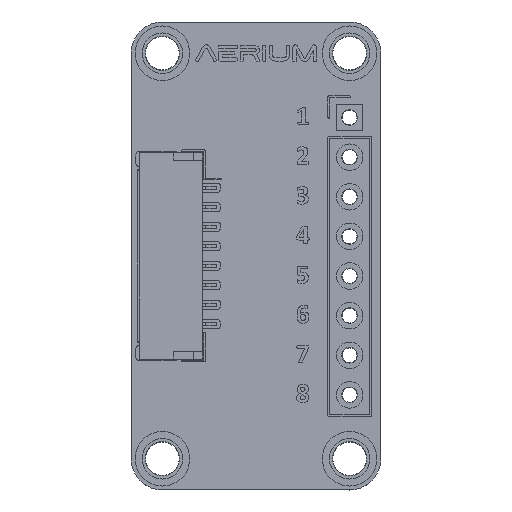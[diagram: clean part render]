
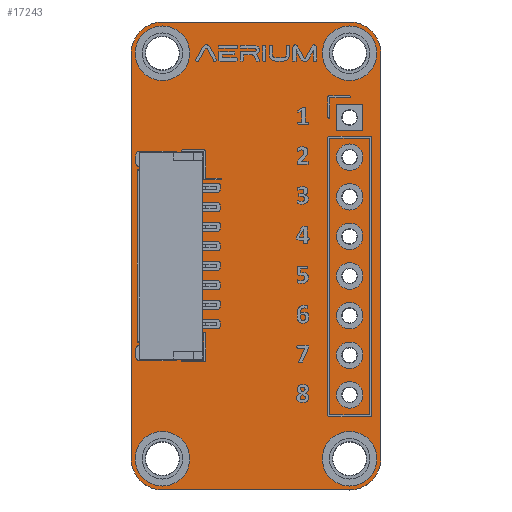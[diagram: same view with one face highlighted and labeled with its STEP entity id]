
A CAD part, top view. The second image highlights one B-rep face of the part: STEP entity #17243.
In plain terms, the highlighted planar face has unit normal (0, 0, 1).
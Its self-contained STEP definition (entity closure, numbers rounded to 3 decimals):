
#491=CIRCLE('',#18411,2.);
#508=CIRCLE('',#18432,2.);
#509=CIRCLE('',#18433,2.);
#510=CIRCLE('',#18434,2.);
#511=CIRCLE('',#18435,1.1);
#512=CIRCLE('',#18436,1.1);
#513=CIRCLE('',#18437,0.5);
#514=CIRCLE('',#18438,0.5);
#515=CIRCLE('',#18439,0.5);
#516=CIRCLE('',#18440,0.5);
#517=CIRCLE('',#18441,1.1);
#518=CIRCLE('',#18442,0.5);
#519=CIRCLE('',#18443,0.5);
#520=CIRCLE('',#18444,0.5);
#521=CIRCLE('',#18445,0.5);
#522=CIRCLE('',#18446,1.1);
#850=FACE_BOUND('',#2300,.T.);
#851=FACE_BOUND('',#2301,.T.);
#852=FACE_BOUND('',#2302,.T.);
#853=FACE_BOUND('',#2303,.T.);
#854=FACE_BOUND('',#2304,.T.);
#855=FACE_BOUND('',#2305,.T.);
#856=FACE_BOUND('',#2306,.T.);
#857=FACE_BOUND('',#2307,.T.);
#858=FACE_BOUND('',#2308,.T.);
#859=FACE_BOUND('',#2309,.T.);
#860=FACE_BOUND('',#2310,.T.);
#861=FACE_BOUND('',#2311,.T.);
#1510=FACE_OUTER_BOUND('',#2299,.T.);
#2299=EDGE_LOOP('',(#15529,#15530,#15531,#15532,#15533,#15534,#15535,#15536));
#2300=EDGE_LOOP('',(#15537));
#2301=EDGE_LOOP('',(#15538));
#2302=EDGE_LOOP('',(#15539));
#2303=EDGE_LOOP('',(#15540));
#2304=EDGE_LOOP('',(#15541));
#2305=EDGE_LOOP('',(#15542));
#2306=EDGE_LOOP('',(#15543));
#2307=EDGE_LOOP('',(#15544));
#2308=EDGE_LOOP('',(#15545));
#2309=EDGE_LOOP('',(#15546));
#2310=EDGE_LOOP('',(#15547));
#2311=EDGE_LOOP('',(#15548));
#4511=LINE('',#28179,#6718);
#4513=LINE('',#28183,#6720);
#4518=LINE('',#28225,#6725);
#4519=LINE('',#28229,#6726);
#6718=VECTOR('',#22734,1.);
#6720=VECTOR('',#22738,1.);
#6725=VECTOR('',#22779,1.);
#6726=VECTOR('',#22782,1.);
#8823=VERTEX_POINT('',#28168);
#8824=VERTEX_POINT('',#28170);
#8827=VERTEX_POINT('',#28177);
#8828=VERTEX_POINT('',#28182);
#8846=VERTEX_POINT('',#28222);
#8847=VERTEX_POINT('',#28224);
#8848=VERTEX_POINT('',#28226);
#8849=VERTEX_POINT('',#28228);
#8850=VERTEX_POINT('',#28231);
#8851=VERTEX_POINT('',#28233);
#8852=VERTEX_POINT('',#28235);
#8853=VERTEX_POINT('',#28237);
#8854=VERTEX_POINT('',#28239);
#8855=VERTEX_POINT('',#28241);
#8856=VERTEX_POINT('',#28243);
#8857=VERTEX_POINT('',#28245);
#8858=VERTEX_POINT('',#28247);
#8859=VERTEX_POINT('',#28249);
#8860=VERTEX_POINT('',#28251);
#8861=VERTEX_POINT('',#28253);
#11429=EDGE_CURVE('',#8823,#8824,#491,.T.);
#11433=EDGE_CURVE('',#8827,#8823,#4511,.T.);
#11435=EDGE_CURVE('',#8824,#8828,#4513,.T.);
#11455=EDGE_CURVE('',#8846,#8827,#508,.T.);
#11456=EDGE_CURVE('',#8847,#8846,#4518,.T.);
#11457=EDGE_CURVE('',#8848,#8847,#509,.T.);
#11458=EDGE_CURVE('',#8849,#8848,#4519,.T.);
#11459=EDGE_CURVE('',#8828,#8849,#510,.T.);
#11460=EDGE_CURVE('',#8850,#8850,#511,.T.);
#11461=EDGE_CURVE('',#8851,#8851,#512,.T.);
#11462=EDGE_CURVE('',#8852,#8852,#513,.T.);
#11463=EDGE_CURVE('',#8853,#8853,#514,.T.);
#11464=EDGE_CURVE('',#8854,#8854,#515,.T.);
#11465=EDGE_CURVE('',#8855,#8855,#516,.T.);
#11466=EDGE_CURVE('',#8856,#8856,#517,.T.);
#11467=EDGE_CURVE('',#8857,#8857,#518,.T.);
#11468=EDGE_CURVE('',#8858,#8858,#519,.T.);
#11469=EDGE_CURVE('',#8859,#8859,#520,.T.);
#11470=EDGE_CURVE('',#8860,#8860,#521,.T.);
#11471=EDGE_CURVE('',#8861,#8861,#522,.T.);
#15529=ORIENTED_EDGE('',*,*,#11429,.F.);
#15530=ORIENTED_EDGE('',*,*,#11433,.F.);
#15531=ORIENTED_EDGE('',*,*,#11455,.F.);
#15532=ORIENTED_EDGE('',*,*,#11456,.F.);
#15533=ORIENTED_EDGE('',*,*,#11457,.F.);
#15534=ORIENTED_EDGE('',*,*,#11458,.F.);
#15535=ORIENTED_EDGE('',*,*,#11459,.F.);
#15536=ORIENTED_EDGE('',*,*,#11435,.F.);
#15537=ORIENTED_EDGE('',*,*,#11460,.T.);
#15538=ORIENTED_EDGE('',*,*,#11461,.T.);
#15539=ORIENTED_EDGE('',*,*,#11462,.T.);
#15540=ORIENTED_EDGE('',*,*,#11463,.T.);
#15541=ORIENTED_EDGE('',*,*,#11464,.T.);
#15542=ORIENTED_EDGE('',*,*,#11465,.T.);
#15543=ORIENTED_EDGE('',*,*,#11466,.T.);
#15544=ORIENTED_EDGE('',*,*,#11467,.T.);
#15545=ORIENTED_EDGE('',*,*,#11468,.T.);
#15546=ORIENTED_EDGE('',*,*,#11469,.T.);
#15547=ORIENTED_EDGE('',*,*,#11470,.T.);
#15548=ORIENTED_EDGE('',*,*,#11471,.T.);
#16138=PLANE('',#18431);
#17243=ADVANCED_FACE('',(#1510,#850,#851,#852,#853,#854,#855,#856,#857,
#858,#859,#860,#861),#16138,.T.);
#18411=AXIS2_PLACEMENT_3D('',#28171,#22726,#22727);
#18431=AXIS2_PLACEMENT_3D('',#28221,#22775,#22776);
#18432=AXIS2_PLACEMENT_3D('',#28223,#22777,#22778);
#18433=AXIS2_PLACEMENT_3D('',#28227,#22780,#22781);
#18434=AXIS2_PLACEMENT_3D('',#28230,#22783,#22784);
#18435=AXIS2_PLACEMENT_3D('',#28232,#22785,#22786);
#18436=AXIS2_PLACEMENT_3D('',#28234,#22787,#22788);
#18437=AXIS2_PLACEMENT_3D('',#28236,#22789,#22790);
#18438=AXIS2_PLACEMENT_3D('',#28238,#22791,#22792);
#18439=AXIS2_PLACEMENT_3D('',#28240,#22793,#22794);
#18440=AXIS2_PLACEMENT_3D('',#28242,#22795,#22796);
#18441=AXIS2_PLACEMENT_3D('',#28244,#22797,#22798);
#18442=AXIS2_PLACEMENT_3D('',#28246,#22799,#22800);
#18443=AXIS2_PLACEMENT_3D('',#28248,#22801,#22802);
#18444=AXIS2_PLACEMENT_3D('',#28250,#22803,#22804);
#18445=AXIS2_PLACEMENT_3D('',#28252,#22805,#22806);
#18446=AXIS2_PLACEMENT_3D('',#28254,#22807,#22808);
#22726=DIRECTION('center_axis',(0.,0.,-1.));
#22727=DIRECTION('ref_axis',(0.,1.,0.));
#22734=DIRECTION('',(1.,0.,0.));
#22738=DIRECTION('',(0.,-1.,0.));
#22775=DIRECTION('center_axis',(0.,0.,1.));
#22776=DIRECTION('ref_axis',(1.,0.,0.));
#22777=DIRECTION('center_axis',(0.,0.,-1.));
#22778=DIRECTION('ref_axis',(-1.,0.,0.));
#22779=DIRECTION('',(0.,1.,0.));
#22780=DIRECTION('center_axis',(0.,0.,-1.));
#22781=DIRECTION('ref_axis',(0.,-1.,0.));
#22782=DIRECTION('',(-1.,0.,0.));
#22783=DIRECTION('center_axis',(0.,0.,-1.));
#22784=DIRECTION('ref_axis',(1.,0.,0.));
#22785=DIRECTION('center_axis',(0.,0.,-1.));
#22786=DIRECTION('ref_axis',(0.,-1.,0.));
#22787=DIRECTION('center_axis',(0.,0.,-1.));
#22788=DIRECTION('ref_axis',(0.,-1.,0.));
#22789=DIRECTION('center_axis',(0.,0.,-1.));
#22790=DIRECTION('ref_axis',(0.,-1.,0.));
#22791=DIRECTION('center_axis',(0.,0.,-1.));
#22792=DIRECTION('ref_axis',(0.,-1.,0.));
#22793=DIRECTION('center_axis',(0.,0.,-1.));
#22794=DIRECTION('ref_axis',(0.,-1.,0.));
#22795=DIRECTION('center_axis',(0.,0.,-1.));
#22796=DIRECTION('ref_axis',(0.,-1.,0.));
#22797=DIRECTION('center_axis',(0.,0.,-1.));
#22798=DIRECTION('ref_axis',(0.,-1.,0.));
#22799=DIRECTION('center_axis',(0.,0.,-1.));
#22800=DIRECTION('ref_axis',(0.,-1.,0.));
#22801=DIRECTION('center_axis',(0.,0.,-1.));
#22802=DIRECTION('ref_axis',(0.,-1.,0.));
#22803=DIRECTION('center_axis',(0.,0.,-1.));
#22804=DIRECTION('ref_axis',(0.,-1.,0.));
#22805=DIRECTION('center_axis',(0.,0.,-1.));
#22806=DIRECTION('ref_axis',(0.,-1.,0.));
#22807=DIRECTION('center_axis',(0.,0.,-1.));
#22808=DIRECTION('ref_axis',(0.,-1.,0.));
#28168=CARTESIAN_POINT('',(13.,4.,1.51));
#28170=CARTESIAN_POINT('',(15.,2.,1.51));
#28171=CARTESIAN_POINT('Origin',(13.,2.,1.51));
#28177=CARTESIAN_POINT('',(1.,4.,1.51));
#28179=CARTESIAN_POINT('',(1.,4.,1.51));
#28182=CARTESIAN_POINT('',(15.,-24.,1.51));
#28183=CARTESIAN_POINT('',(15.,2.,1.51));
#28221=CARTESIAN_POINT('Origin',(0.,0.,1.51));
#28222=CARTESIAN_POINT('',(-1.,2.,1.51));
#28223=CARTESIAN_POINT('Origin',(1.,2.,1.51));
#28224=CARTESIAN_POINT('',(-1.,-24.,1.51));
#28225=CARTESIAN_POINT('',(-1.,-24.,1.51));
#28226=CARTESIAN_POINT('',(1.,-26.,1.51));
#28227=CARTESIAN_POINT('Origin',(1.,-24.,1.51));
#28228=CARTESIAN_POINT('',(13.,-26.,1.51));
#28229=CARTESIAN_POINT('',(13.,-26.,1.51));
#28230=CARTESIAN_POINT('Origin',(13.,-24.,1.51));
#28231=CARTESIAN_POINT('',(1.,-22.9,1.51));
#28232=CARTESIAN_POINT('Origin',(1.,-24.,1.51));
#28233=CARTESIAN_POINT('',(13.,-22.9,1.51));
#28234=CARTESIAN_POINT('Origin',(13.,-24.,1.51));
#28235=CARTESIAN_POINT('',(13.,-19.405,1.51));
#28236=CARTESIAN_POINT('Origin',(13.,-19.905,1.51));
#28237=CARTESIAN_POINT('',(13.,-16.865,1.51));
#28238=CARTESIAN_POINT('Origin',(13.,-17.365,1.51));
#28239=CARTESIAN_POINT('',(13.,-14.325,1.51));
#28240=CARTESIAN_POINT('Origin',(13.,-14.825,1.51));
#28241=CARTESIAN_POINT('',(13.,-11.785,1.51));
#28242=CARTESIAN_POINT('Origin',(13.,-12.285,1.51));
#28243=CARTESIAN_POINT('',(1.,3.1,1.51));
#28244=CARTESIAN_POINT('Origin',(1.,2.,1.51));
#28245=CARTESIAN_POINT('',(13.,-9.245,1.51));
#28246=CARTESIAN_POINT('Origin',(13.,-9.745,1.51));
#28247=CARTESIAN_POINT('',(13.,-6.705,1.51));
#28248=CARTESIAN_POINT('Origin',(13.,-7.205,1.51));
#28249=CARTESIAN_POINT('',(13.,-4.165,1.51));
#28250=CARTESIAN_POINT('Origin',(13.,-4.665,1.51));
#28251=CARTESIAN_POINT('',(13.,-1.625,1.51));
#28252=CARTESIAN_POINT('Origin',(13.,-2.125,1.51));
#28253=CARTESIAN_POINT('',(13.,3.1,1.51));
#28254=CARTESIAN_POINT('Origin',(13.,2.,1.51));
